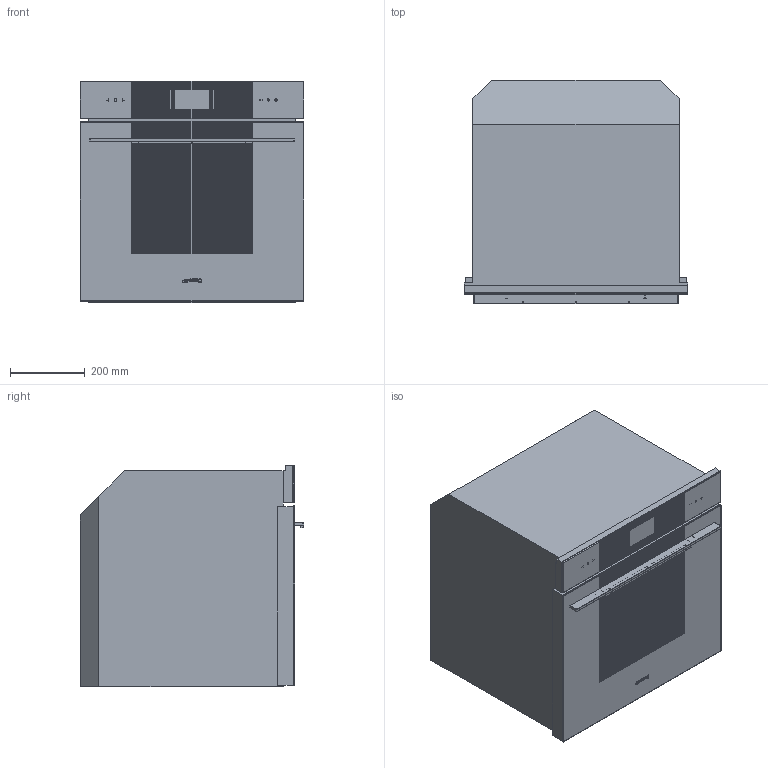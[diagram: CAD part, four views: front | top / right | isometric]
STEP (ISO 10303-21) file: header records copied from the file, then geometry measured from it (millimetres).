
FILE_DESCRIPTION(/* description */ (''),/* implementation_level */ '2;1');
FILE_NAME(/* name */ 'SO6102TG.stp',/* time_stamp */ '2024-10-31T08:40:12+01:00',/* author */ (''),/* organization */ (''),/* preprocessor_version */ 'ST-DEVELOPER v16',/* originating_system */ 'SIEMENS PLM Software NX 11.0',/* authorisation */ '');
FILE_SCHEMA (('AUTOMOTIVE_DESIGN { 1 0 10303 214 3 1 1 1 }'));
Length unit declared in the file: millimetre
Products named in the file (1): fran67CCC24E6h50
Bounding box: 597 x 597.38 x 591.55 mm (x, y, z)
Volume: 177778726.5 mm3; surface area: 3572759 mm2
Topology: 8 solids, 8 shells, 1054 faces, 3056 edges, 2020 vertices
Faces by surface type: plane 921, cylinder 88, bspline 16, cone 13, extrusion 10, torus 6
Full cylindrical faces by diameter (mm): 2.5 x3, 3.3 x2, 3.5 x3, 4.4 x6, 5 x1, 6 x6, 6.5 x1
Entity records: 35060 total; most frequent: CARTESIAN_POINT 6588, ORIENTED_EDGE 6022, DIRECTION 5265, EDGE_CURVE 3011, VECTOR 2795, LINE 2785, VERTEX_POINT 2015, EDGE_LOOP 1451
